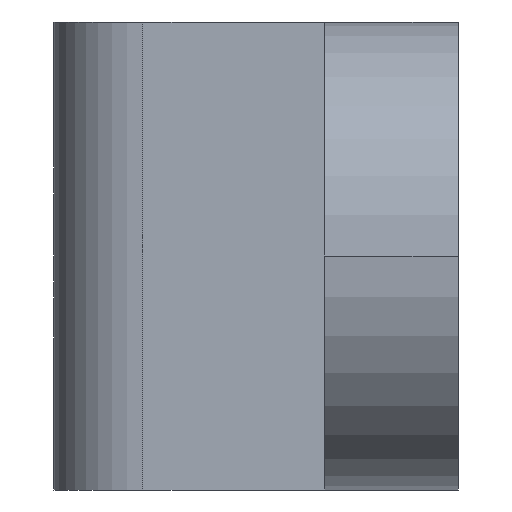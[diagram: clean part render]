
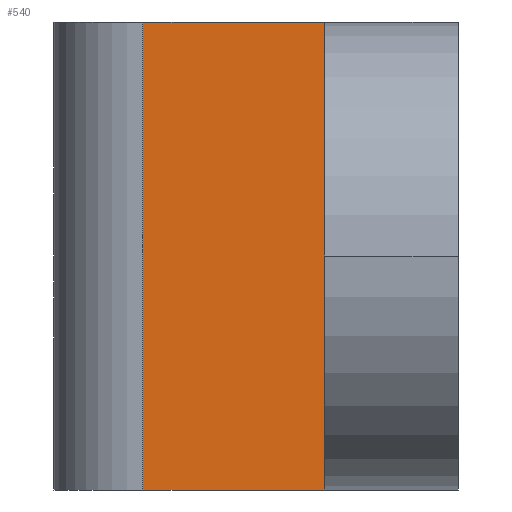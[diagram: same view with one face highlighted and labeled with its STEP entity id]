
A CAD part, left-side view. The second image highlights one B-rep face of the part: STEP entity #540.
In plain terms, the highlighted planar face has unit normal (-1, 0, 0).
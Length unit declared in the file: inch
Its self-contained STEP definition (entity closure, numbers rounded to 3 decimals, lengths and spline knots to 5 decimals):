
#61 = FACE_OUTER_BOUND ( 'NONE', #934, .T. ) ;
#64 = LINE ( 'NONE', #925, #823 ) ;
#68 = VECTOR ( 'NONE', #218, 39.37008 ) ;
#92 = EDGE_CURVE ( 'NONE', #828, #838, #1014, .T. ) ;
#97 = ORIENTED_EDGE ( 'NONE', *, *, #260, .F. ) ;
#183 = ORIENTED_EDGE ( 'NONE', *, *, #92, .F. ) ;
#206 = CARTESIAN_POINT ( 'NONE',  ( -0.46853, 0.363, 0.21 ) ) ;
#213 = DIRECTION ( 'NONE',  ( 0., 0., -1. ) ) ;
#218 = DIRECTION ( 'NONE',  ( 0., 0., -1. ) ) ;
#224 = VERTEX_POINT ( 'NONE', #784 ) ;
#241 = VECTOR ( 'NONE', #424, 39.37008 ) ;
#252 = ORIENTED_EDGE ( 'NONE', *, *, #432, .T. ) ;
#260 = EDGE_CURVE ( 'NONE', #224, #828, #865, .T. ) ;
#262 = CARTESIAN_POINT ( 'NONE',  ( -0.46853, 0.12, -0.21 ) ) ;
#298 = CARTESIAN_POINT ( 'NONE',  ( -0.46853, 0.12, 0.21 ) ) ;
#349 = CARTESIAN_POINT ( 'NONE',  ( -0.46853, 0.283, -0.21 ) ) ;
#370 = VERTEX_POINT ( 'NONE', #349 ) ;
#382 = VECTOR ( 'NONE', #720, 39.37008 ) ;
#424 = DIRECTION ( 'NONE',  ( 0., -1., 0. ) ) ;
#432 = EDGE_CURVE ( 'NONE', #370, #838, #735, .T. ) ;
#464 = CARTESIAN_POINT ( 'NONE',  ( -0.46853, 0.363, 0.21 ) ) ;
#539 = EDGE_CURVE ( 'NONE', #224, #370, #64, .T. ) ;
#540 = ADVANCED_FACE ( 'NONE', ( #61 ), #592, .F. ) ;
#592 = PLANE ( 'NONE',  #795 ) ;
#617 = DIRECTION ( 'NONE',  ( 0., 0., -1. ) ) ;
#677 = DIRECTION ( 'NONE',  ( 1., 0., 0. ) ) ;
#720 = DIRECTION ( 'NONE',  ( 0., -1., 0. ) ) ;
#735 = LINE ( 'NONE', #965, #241 ) ;
#776 = ORIENTED_EDGE ( 'NONE', *, *, #539, .T. ) ;
#784 = CARTESIAN_POINT ( 'NONE',  ( -0.46853, 0.283, 0.21 ) ) ;
#795 = AXIS2_PLACEMENT_3D ( 'NONE', #206, #677, #617 ) ;
#817 = CARTESIAN_POINT ( 'NONE',  ( -0.46853, 0.12, 0.21 ) ) ;
#823 = VECTOR ( 'NONE', #213, 39.37008 ) ;
#828 = VERTEX_POINT ( 'NONE', #817 ) ;
#838 = VERTEX_POINT ( 'NONE', #262 ) ;
#865 = LINE ( 'NONE', #464, #382 ) ;
#925 = CARTESIAN_POINT ( 'NONE',  ( -0.46853, 0.283, 0.21 ) ) ;
#934 = EDGE_LOOP ( 'NONE', ( #97, #776, #252, #183 ) ) ;
#965 = CARTESIAN_POINT ( 'NONE',  ( -0.46853, 0.363, -0.21 ) ) ;
#1014 = LINE ( 'NONE', #298, #68 ) ;
